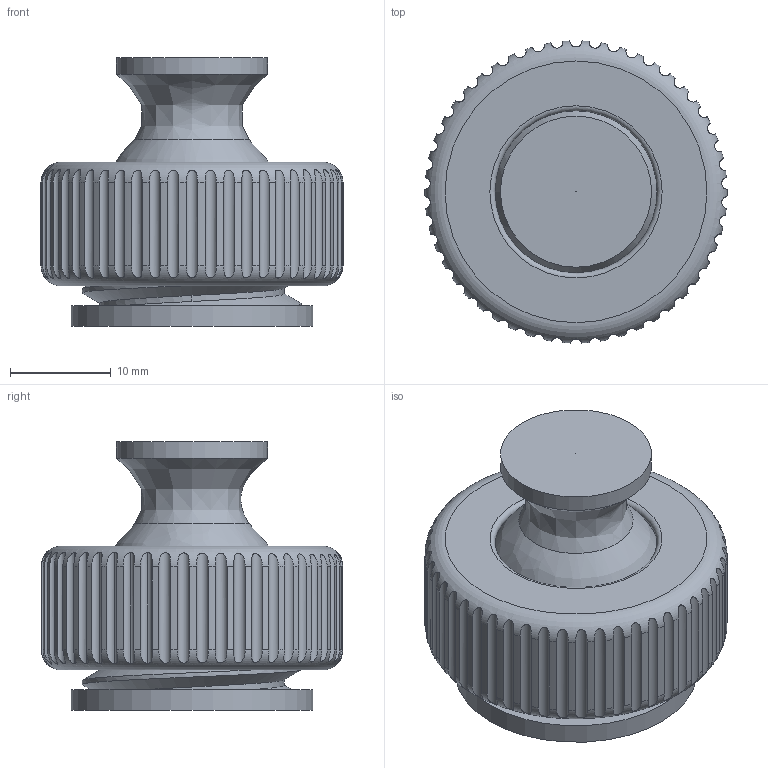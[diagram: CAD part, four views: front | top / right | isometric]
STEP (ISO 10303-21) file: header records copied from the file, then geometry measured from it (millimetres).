
FILE_DESCRIPTION(('HOOPS Exchange Step'),'2;1');
FILE_NAME('/private/var/mobile/Containers/Data/Application/FEB09317-4D42-4244-84D5-4744026CA7E9/tmp/export/temp_export','2021-11-26T22:09:57+01:00',('mobile'),('Shapr3D Limited'),'HOOPS Exchange 2021.1','Shapr3D','Authorized');
FILE_SCHEMA( ('AP203_CONFIGURATION_CONTROLLED_3D_DESIGN_OF_MECHANICAL_PARTS_AND_ASSEMBLIES_MIM_LF') );
Length unit declared in the file: millimetre
Products named in the file (4): Screw.step; Base.step; Ball.step; /private/var/mobile/Containers/Data/Application/FEB09317-4D42-4244-84D5-4744026CA7E9/tmp/48F531AC-082A-43D5-8278-2240845CE4ED.tmp
Assembly tree (3 placements, depth 2):
  /private/var/mobile/Containers/Data/Application/FEB09317-4D42-4244-84D5-4744026CA7E9/tmp/48F531AC-082A-43D5-8278-2240845CE4ED.tmp
    Screw.step
    Base.step
    Ball.step
Bounding box: 30 x 29.98 x 26.64 mm (x, y, z)
Volume: 10551.4 mm3; surface area: 6691 mm2
Topology: 3 solids, 3 shells, 147 faces, 433 edges, 294 vertices
Faces by surface type: cylinder 128, bspline 8, plane 8, torus 3
Full cylindrical faces by diameter (mm): 0.001 x1, 15.001 x1, 18.337 x2, 19.302 x2, 21.765 x1, 22.639 x2, 24 x1
Entity records: 22378 total; most frequent: CARTESIAN_POINT 18600, ORIENTED_EDGE 864, DIRECTION 676, EDGE_CURVE 432, VERTEX_POINT 294, AXIS2_PLACEMENT_3D 276, B_SPLINE_CURVE_WITH_KNOTS 170, EDGE_LOOP 154
